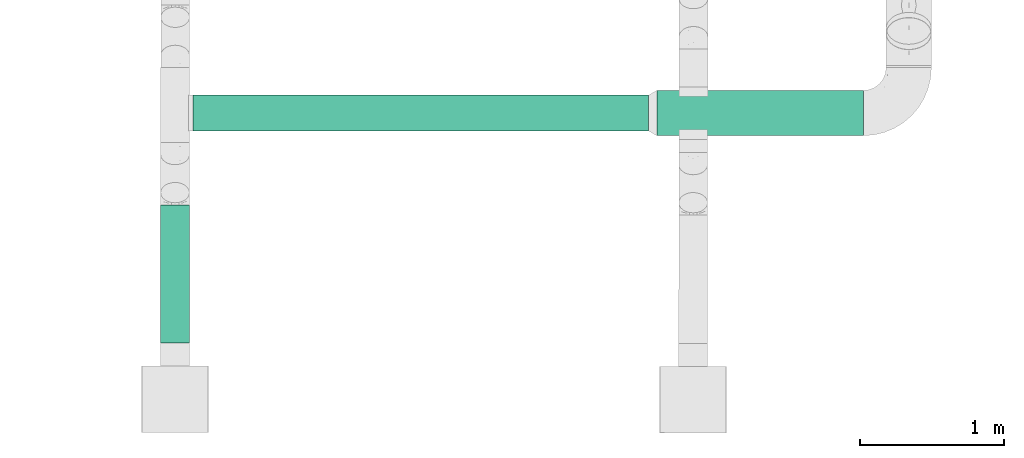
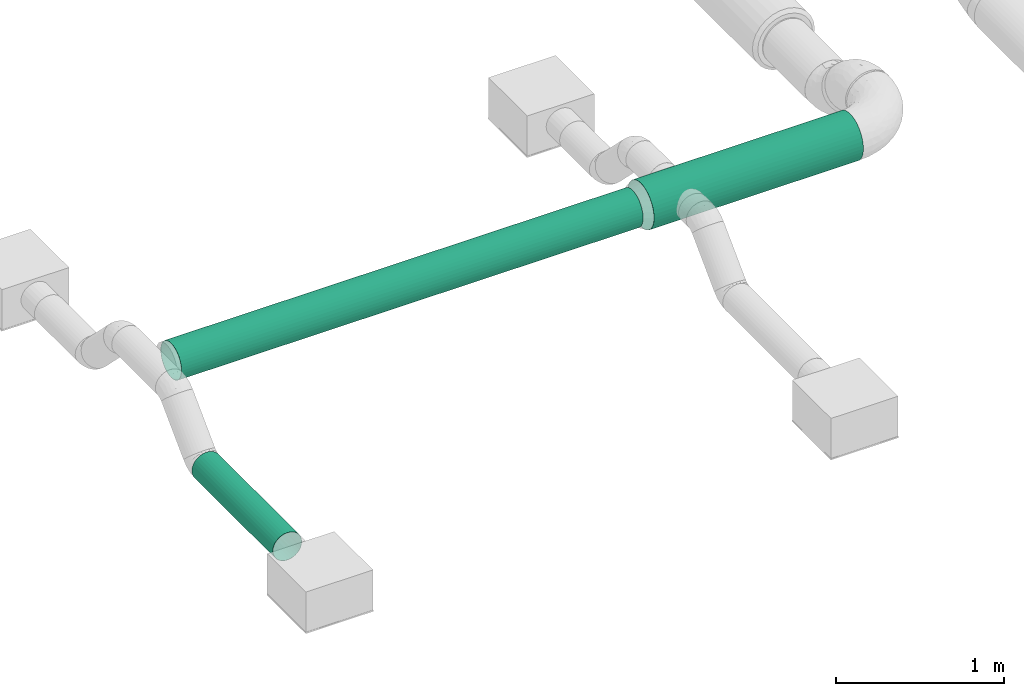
# One storey, part 1 of 63: 3 flow segments.
"""IFC2X3 building model written with IfcOpenShell, lengths in millimetres."""

from ifc_helpers import new_model, entity, si_unit, converted_unit, derived_unit, direction, frame, origin_with_axes, origin_2d_with_axis, place, context, subcontext, project, spatial, hollow_circle, extrude, source, transform, mapped, type_object, element, save


model = new_model("IFC2X3")

# Units and contexts
model_context = context("Model", 3, precision=0.01, world=frame((0.0, 4.29681676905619e-09, 0.0)), true_north=direction((4.01073788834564e-13, 1.0)))
plan_context = context("Plan", 3, precision=0.01, world=frame((0.0, 4.29681676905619e-09, 0.0)), true_north=direction((4.01073788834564e-13, 1.0)))
body_context = subcontext(model_context, "Body", "Model", "MODEL_VIEW")
ifc_project = project(units=[converted_unit("PLANEANGLEUNIT", "DEGREE", entity("IfcPositiveLengthMeasure", 0.0174532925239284), si_unit("PLANEANGLEUNIT", "RADIAN"), dimensions=[0, 0, 0, 0, 0, 0, 0]), si_unit("AREAUNIT", "SQUARE_METRE"), si_unit("LENGTHUNIT", "METRE", prefix="MILLI"), si_unit("MASSUNIT", "GRAM", prefix="KILO"), si_unit("POWERUNIT", "WATT"), si_unit("PRESSUREUNIT", "PASCAL"), si_unit("FORCEUNIT", "NEWTON", prefix="KILO"), si_unit("ELECTRICVOLTAGEUNIT", "VOLT"), si_unit("ELECTRICCURRENTUNIT", "AMPERE"), si_unit("THERMODYNAMICTEMPERATUREUNIT", "DEGREE_CELSIUS"), si_unit("TIMEUNIT", "SECOND"), si_unit("VOLUMEUNIT", "CUBIC_METRE"), derived_unit("LINEARVELOCITYUNIT", [(si_unit("LENGTHUNIT", "METRE"), 1), (si_unit("TIMEUNIT", "SECOND"), -1)]), derived_unit("VOLUMETRICFLOWRATEUNIT", [(si_unit("VOLUMEUNIT", "CUBIC_METRE"), 1), (si_unit("TIMEUNIT", "SECOND"), -1)]), derived_unit("THERMALTRANSMITTANCEUNIT", [(si_unit("POWERUNIT", "WATT"), 1), (si_unit("THERMODYNAMICTEMPERATUREUNIT", "KELVIN"), -1), (si_unit("AREAUNIT", "SQUARE_METRE"), -1)]), derived_unit("SOUNDPRESSUREUNIT", [(si_unit("PRESSUREUNIT", "PASCAL"), 1)])], contexts=[model_context, plan_context])

# Site, building, storey
site_placement = place(None, frame((0.0, -4.29681676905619e-09, 0.0), z_axis=(0.0, 0.0, 1.0), x_axis=(1.0, 0.0, 0.0)))
site = spatial("IfcSite", under=ifc_project, at=site_placement, CompositionType="ELEMENT")
building_placement = place(site_placement, frame((0.0, 4.29681676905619e-09, 0.0), z_axis=(0.0, 0.0, 1.0), x_axis=(1.0, 0.0, 0.0)))
building = spatial("IfcBuilding", under=site, at=building_placement, Name="mc-building", CompositionType="ELEMENT")
storey_placement = place(building_placement, frame((0.0, 0.0, 210900.0), z_axis=(0.0, 0.0, 1.0), x_axis=(1.0, 0.0, 0.0)))
storey = spatial("IfcBuildingStorey", under=building, at=storey_placement, Name="Nivå F", CompositionType="ELEMENT", Elevation=210900.0)

# Flow segments
duct_segment_type = type_object("IfcDuctSegmentType", Name="KK002T - Spiro kanaler, Forsinket stål, korte bend", PredefinedType="RIGIDSEGMENT")
shared_shape_1 = source(origin_with_axes(), body_context, "Body", "SweptSolid", [
    extrude(hollow_circle(Radius=125.0, WallThickness=2.0, at=origin_2d_with_axis()), frame((0.0, 0.0, 0.0), z_axis=(1.0, 0.0, 0.0), x_axis=(0.0, 1.0, 0.0)), (0.0, 0.0, 1.0), 3165.4),
])
flow_segment_1_placement = place(storey_placement, frame((523426.66171, 445574.77939, 4270.0), z_axis=(0.0, 0.0, 1.0), x_axis=(0.999999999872, 1.5999999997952e-05, 0.0)))
element("IfcFlowSegment", 1, at=flow_segment_1_placement, inside=storey, type_object=duct_segment_type, Name="KK002T - Spiro kanaler, Forsinket stål, korte bend", context=body_context, shape_type="MappedRepresentation", body=[
    mapped(shared_shape_1, transform((0.0, 0.0, 0.0), scale=1.0)),
])
shared_shape_2 = source(origin_with_axes(), body_context, "Body", "SweptSolid", [
    extrude(hollow_circle(Radius=100.0, WallThickness=2.0, at=origin_2d_with_axis()), frame((0.0, 0.0, 0.0), z_axis=(1.0, 0.0, 0.0), x_axis=(0.0, 1.0, 0.0)), (0.0, 0.0, 1.0), 961.3),
])
flow_segment_2_placement = place(storey_placement, frame((523300.62606, 443975.9536, 3935.01186999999), z_axis=(0.0, 0.0, 1.0), x_axis=(0.000647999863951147, 0.999999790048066, 0.0)))
element("IfcFlowSegment", 2, at=flow_segment_2_placement, inside=storey, type_object=duct_segment_type, Name="KK002T - Spiro kanaler, Forsinket stål, korte bend", context=body_context, shape_type="MappedRepresentation", body=[
    mapped(shared_shape_2, transform((0.0, 0.0, 0.0), scale=1.0)),
])
shared_shape_3 = source(origin_with_axes(), body_context, "Body", "SweptSolid", [
    extrude(hollow_circle(Radius=157.5, WallThickness=2.0, at=origin_2d_with_axis()), frame((0.0, 0.0, 0.0), z_axis=(1.0, 0.0, 0.0), x_axis=(0.0, 1.0, 0.0)), (0.0, 0.0, 1.0), 1435.7),
])
flow_segment_3_placement = place(storey_placement, frame((528084.04747, 445574.88105, 4270.0), z_axis=(0.0, 0.0, 1.0), x_axis=(-0.99999999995, -9.9999999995e-06, 0.0)))
element("IfcFlowSegment", 3, at=flow_segment_3_placement, inside=storey, type_object=duct_segment_type, Name="KK002T - Spiro kanaler, Forsinket stål, korte bend", context=body_context, shape_type="MappedRepresentation", body=[
    mapped(shared_shape_3, transform((0.0, 0.0, 0.0), scale=1.0)),
])

save(model, "model.ifc")
